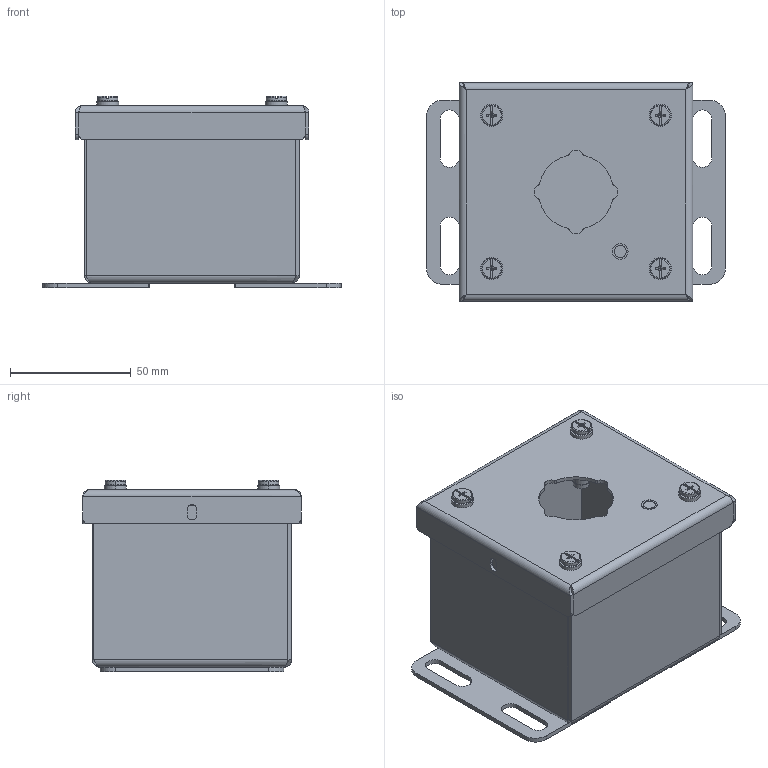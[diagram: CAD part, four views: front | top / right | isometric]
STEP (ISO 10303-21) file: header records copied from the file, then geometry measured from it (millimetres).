
FILE_DESCRIPTION((''),'2;1');
FILE_NAME('MODEL-335_ASM','2021-06-02T11:50:07',('chads'),('SAGINAW CONTROL & ENGINEERING'),'CREO PARAMETRIC BY PTC INC, 2017260','CREO PARAMETRIC BY PTC INC, 2017260','');
FILE_SCHEMA(('AUTOMOTIVE_DESIGN { 1 0 10303 214 1 1 1 1 }'));
Length unit declared in the file: inch
Products named in the file (10): MODEL-335-BDY; MODEL-335-DR; 100063; 102145; 101966; 100009; 100983; 102534; MODEL-335-GSKT; MODEL-335_ASM
Assembly tree (16 placements, depth 2):
  MODEL-335_ASM
    MODEL-335-BDY
    MODEL-335-DR
    100063
    102145  x2
    101966
    100009
    100983  x4
    102534  x4
    MODEL-335-GSKT
Bounding box: 123.83 x 90.49 x 79.34 mm (x, y, z)
Volume: 87847.7 mm3; surface area: 116398 mm2
Topology: 19 solids, 19 shells, 726 faces, 1791 edges, 1050 vertices
Faces by surface type: plane 278, cylinder 240, bspline 100, torus 80, cone 28
Entity records: 21768 total; most frequent: CARTESIAN_POINT 6081, DIRECTION 2083, ORIENTED_EDGE 2030, EDGE_CURVE 1015, PRESENTATION_STYLE_ASSIGNMENT 927, STYLED_ITEM 927, CURVE_STYLE 851, AXIS2_PLACEMENT_3D 745
